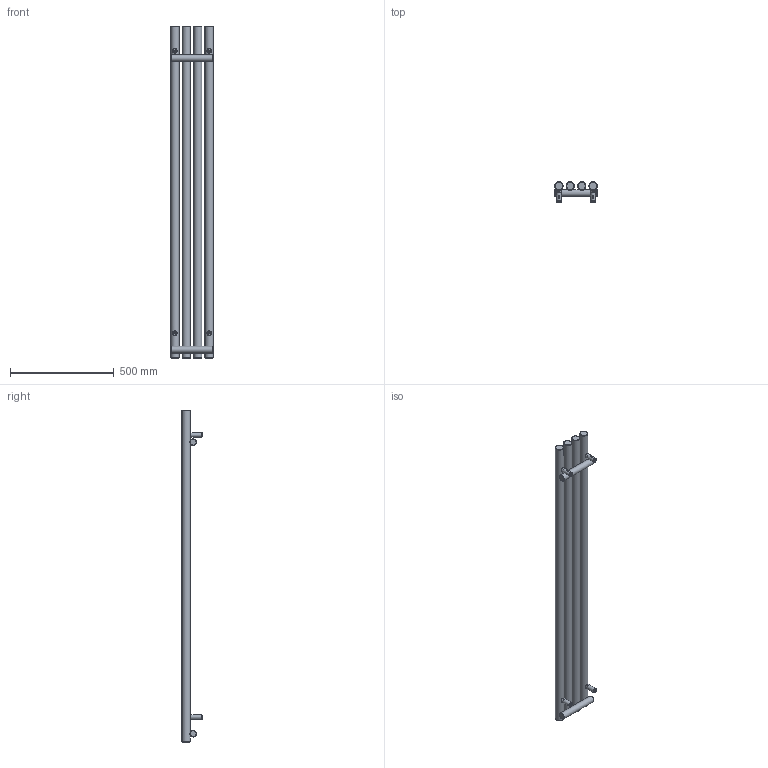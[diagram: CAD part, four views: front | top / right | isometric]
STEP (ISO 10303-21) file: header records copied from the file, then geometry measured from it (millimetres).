
FILE_DESCRIPTION(/* description */ (''),/* implementation_level */ '2;1');
FILE_NAME(/* name */ 'Z:\R\G\P\RGP116 - Grzejniki Geyser\Work\Inventor\Circolo (Rolo V, Rolo H)\ROLO-ROOM\Marketing\Bryły 3D\Zaokrąglone\WLROR160020-ES-CK-(Z).stp',/* time_stamp */ '2024-03-29T15:54:49+01:00',/* author */ ('NowAd'),/* organization */ (''),/* preprocessor_version */ 'ST-DEVELOPER v17.2',/* originating_system */ 'Autodesk Inventor 2019',/* authorisation */ '');
FILE_SCHEMA (('AUTOMOTIVE_DESIGN { 1 0 10303 214 3 1 1 }'));
Length unit declared in the file: millimetre
Products named in the file (3): WLROR160020-ES-CK-(Z); PGROR160020-ES-CK-(K); CK-V-fi40 marketing
Assembly tree (5 placements, depth 2):
  WLROR160020-ES-CK-(Z)
    PGROR160020-ES-CK-(K)
    CK-V-fi40 marketing  x4
Bounding box: 205 x 96.5 x 1600 mm (x, y, z)
Volume: 8414175.4 mm3; surface area: 885950.3 mm2
Topology: 5 solids, 5 shells, 310 faces, 784 edges, 524 vertices
Faces by surface type: plane 130, cylinder 72, cone 60, torus 40, bspline 8
Full cylindrical faces by diameter (mm): 4.134 x4, 4.48 x4, 6.4 x4, 10 x4, 12 x4, 15.834 x4, 16 x4, 18.631 x2, 22 x4, 32 x2, 40 x4
Entity records: 5818 total; most frequent: CARTESIAN_POINT 2735, DIRECTION 645, ORIENTED_EDGE 606, EDGE_CURVE 303, AXIS2_PLACEMENT_3D 286, VERTEX_POINT 206, EDGE_LOOP 161, CIRCLE 151
